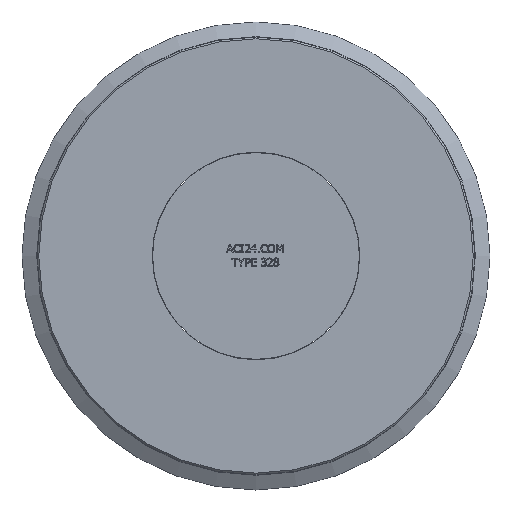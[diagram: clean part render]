
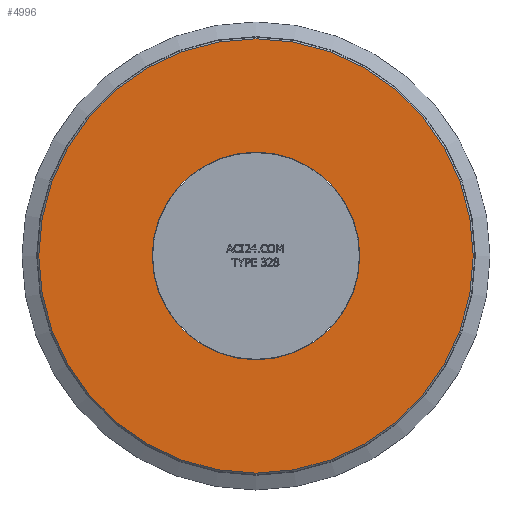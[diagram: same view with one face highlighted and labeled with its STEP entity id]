
A CAD part, top view. The second image highlights one B-rep face of the part: STEP entity #4996.
In plain terms, the highlighted planar face has unit normal (0, 0, 1).
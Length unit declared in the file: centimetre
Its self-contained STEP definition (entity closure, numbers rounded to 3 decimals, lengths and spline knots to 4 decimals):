
#27=CIRCLE('',#5157,15.7);
#29=CIRCLE('',#5161,7.5);
#85=FACE_BOUND('',#992,.T.);
#697=FACE_OUTER_BOUND('',#991,.T.);
#991=EDGE_LOOP('',(#4569));
#992=EDGE_LOOP('',(#4570));
#2430=VERTEX_POINT('',#8913);
#2432=VERTEX_POINT('',#8919);
#3146=EDGE_CURVE('',#2430,#2430,#27,.T.);
#3148=EDGE_CURVE('',#2432,#2432,#29,.T.);
#4569=ORIENTED_EDGE('',*,*,#3146,.F.);
#4570=ORIENTED_EDGE('',*,*,#3148,.F.);
#4732=PLANE('',#5160);
#4996=ADVANCED_FACE('',(#697,#85),#4732,.T.);
#5157=AXIS2_PLACEMENT_3D('',#8914,#5951,#5952);
#5160=AXIS2_PLACEMENT_3D('',#8918,#5957,#5958);
#5161=AXIS2_PLACEMENT_3D('',#8920,#5959,#5960);
#5951=DIRECTION('center_axis',(0.,0.,
-1.));
#5952=DIRECTION('ref_axis',(0.,-1.,0.));
#5957=DIRECTION('center_axis',(0.,0.,
1.));
#5958=DIRECTION('ref_axis',(0.,1.,0.));
#5959=DIRECTION('center_axis',(0.,0.,
1.));
#5960=DIRECTION('ref_axis',(-1.,0.,0.));
#8913=CARTESIAN_POINT('',(0.,15.7,1.1));
#8914=CARTESIAN_POINT('Origin',(0.,0.,
1.1));
#8918=CARTESIAN_POINT('Origin',(0.,7.5,1.1));
#8919=CARTESIAN_POINT('',(0.,7.5,1.1));
#8920=CARTESIAN_POINT('Origin',(0.,0.,
1.1));
